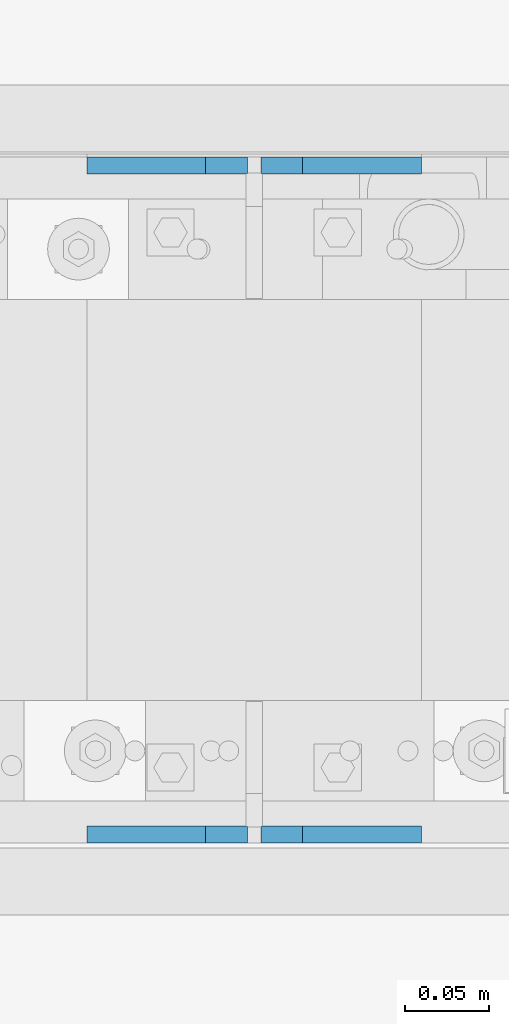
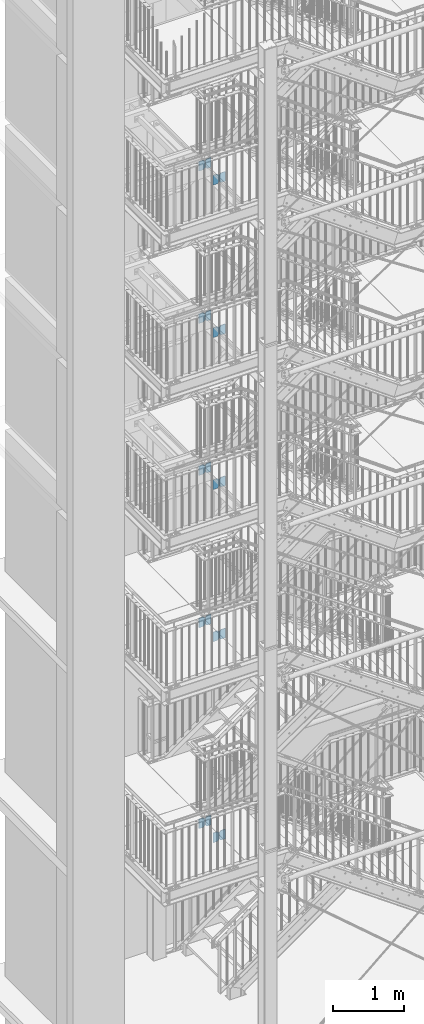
# One storey, part 160 of 817: 20 plates, 40 openings.
"""IFC2X3 building model written with IfcOpenShell, lengths in millimetres."""

from ifc_helpers import new_model, entity, si_unit, converted_unit, frame, origin, origin_with_axes, place, context, project, spatial, polyline, outline, extrude, material, layer, layer_set, element, save


model = new_model("IFC2X3")

# Units and contexts
model_context = context("Model", 3, precision=1e-09, world=origin_with_axes())
ifc_project = project(units=[si_unit("LENGTHUNIT", "METRE", prefix="MILLI"), si_unit("AREAUNIT", "SQUARE_METRE"), si_unit("VOLUMEUNIT", "CUBIC_METRE"), converted_unit("PLANEANGLEUNIT", "DEGREE", entity("IfcPlaneAngleMeasure", 0.01745329), si_unit("PLANEANGLEUNIT", "RADIAN"), dimensions=[0, 0, 0, 0, 0, 0, 0])], contexts=[model_context])

# Site, building, storey
site_placement = place(None, origin_with_axes())
site = spatial("IfcSite", under=ifc_project, at=site_placement, Name="Cnopf'sche Kinderklinik", CompositionType="ELEMENT")
building_placement = place(site_placement, origin_with_axes())
building = spatial("IfcBuilding", under=site, at=building_placement, Name="Struktur 1", CompositionType="ELEMENT")
storey_placement = place(building_placement, origin_with_axes())
storey = spatial("IfcBuildingStorey", under=building, at=storey_placement, Name="Default Storey", CompositionType="ELEMENT", Elevation=0.0)

# Plate, openings
ifc_material = material(Name="S235JR")
ifc_layer = layer(ifc_material, 10.0)
ifc_layer_set = layer_set([ifc_layer], Name="S235JR")
plate_1_placement = place(None, frame((4852.713402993, 6136.736971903, 3428.5), z_axis=(0.0, 1.0, 0.0), x_axis=(-1.0, 0.0, 0.0)))
plate_1 = element("IfcPlate", 1, at=plate_1_placement, inside=storey, material=ifc_layer_set, Name="Stiffener#1", ObjectType="Stiffener#1", context=model_context, shape_type="SweptSolid", body=[
    extrude(outline(polyline([(0.0, 0.0), (96.0, 0.0), (96.0, 167.0), (0.0, 167.0), (0.0, 0.0)])), origin_with_axes(), (0.0, 0.0, 1.0), 10.0),
])
opening_1_placement = place(plate_1_placement, frame((0.0, 0.0, -0.01), z_axis=(0.0, 0.0, 1.0), x_axis=(1.0, 0.0, 0.0)))
element("IfcOpeningElement", 2, at=opening_1_placement, cuts=plate_1, ObjectType="Opening", context=model_context, shape_type="SweptSolid", body=[
    extrude(outline(polyline([(0.0, 167.0), (0.0, 142.0), (25.0, 167.0), (0.0, 167.0)])), origin(), (0.0, 0.0, 1.0), 10.02),
])
opening_2_placement = place(plate_1_placement, frame((0.0, 0.0, -0.01), z_axis=(0.0, 0.0, 1.0), x_axis=(1.0, 0.0, 0.0)))
element("IfcOpeningElement", 3, at=opening_2_placement, cuts=plate_1, ObjectType="Opening", context=model_context, shape_type="SweptSolid", body=[
    extrude(outline(polyline([(0.0, 0.0), (25.0, 0.0), (0.0, 25.0), (0.0, 0.0)])), origin(), (0.0, 0.0, 1.0), 10.02),
])

plate_2_placement = place(None, frame((4956.713402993, 6136.736971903, 3428.5), z_axis=(0.0, 1.0, 0.0), x_axis=(-1.0, 0.0, 0.0)))
plate_2 = element("IfcPlate", 4, at=plate_2_placement, inside=storey, material=ifc_layer_set, Name="Stiffener#0", ObjectType="Stiffener#0", context=model_context, shape_type="SweptSolid", body=[
    extrude(outline(polyline([(0.0, 0.0), (96.0, 0.0), (96.0, 167.0), (0.0, 167.0), (0.0, 0.0)])), origin_with_axes(), (0.0, 0.0, 1.0), 10.0),
])
opening_3_placement = place(plate_2_placement, frame((0.0, 0.0, -0.01), z_axis=(0.0, 0.0, 1.0), x_axis=(1.0, 0.0, 0.0)))
element("IfcOpeningElement", 5, at=opening_3_placement, cuts=plate_2, ObjectType="Opening", context=model_context, shape_type="SweptSolid", body=[
    extrude(outline(polyline([(96.0, 167.0), (71.0, 167.0), (96.0, 142.0), (96.0, 167.0)])), origin(), (0.0, 0.0, 1.0), 10.02),
])
opening_4_placement = place(plate_2_placement, frame((0.0, 0.0, -0.01), z_axis=(0.0, 0.0, 1.0), x_axis=(1.0, 0.0, 0.0)))
element("IfcOpeningElement", 6, at=opening_4_placement, cuts=plate_2, ObjectType="Opening", context=model_context, shape_type="SweptSolid", body=[
    extrude(outline(polyline([(96.0, 0.0), (96.0, 25.0), (71.0, 0.0), (96.0, 0.0)])), origin(), (0.0, 0.0, 1.0), 10.02),
])

plate_3_placement = place(None, frame((4852.713402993, 5736.736971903, 3428.5), z_axis=(0.0, 1.0, 0.0), x_axis=(-1.0, 0.0, 0.0)))
plate_3 = element("IfcPlate", 7, at=plate_3_placement, inside=storey, material=ifc_layer_set, Name="Stiffener#1", ObjectType="Stiffener#1", context=model_context, shape_type="SweptSolid", body=[
    extrude(outline(polyline([(0.0, 0.0), (96.0, 0.0), (96.0, 167.0), (0.0, 167.0), (0.0, 0.0)])), origin_with_axes(), (0.0, 0.0, 1.0), 10.0),
])
opening_5_placement = place(plate_3_placement, frame((0.0, 0.0, -0.01), z_axis=(0.0, 0.0, 1.0), x_axis=(1.0, 0.0, 0.0)))
element("IfcOpeningElement", 8, at=opening_5_placement, cuts=plate_3, ObjectType="Opening", context=model_context, shape_type="SweptSolid", body=[
    extrude(outline(polyline([(0.0, 167.0), (0.0, 142.0), (25.0, 167.0), (0.0, 167.0)])), origin(), (0.0, 0.0, 1.0), 10.02),
])
opening_6_placement = place(plate_3_placement, frame((0.0, 0.0, -0.01), z_axis=(0.0, 0.0, 1.0), x_axis=(1.0, 0.0, 0.0)))
element("IfcOpeningElement", 9, at=opening_6_placement, cuts=plate_3, ObjectType="Opening", context=model_context, shape_type="SweptSolid", body=[
    extrude(outline(polyline([(0.0, 0.0), (25.0, 0.0), (0.0, 25.0), (0.0, 0.0)])), origin(), (0.0, 0.0, 1.0), 10.02),
])

plate_4_placement = place(None, frame((4956.713402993, 5736.736971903, 3428.5), z_axis=(0.0, 1.0, 0.0), x_axis=(-1.0, 0.0, 0.0)))
plate_4 = element("IfcPlate", 10, at=plate_4_placement, inside=storey, material=ifc_layer_set, Name="Stiffener#0", ObjectType="Stiffener#0", context=model_context, shape_type="SweptSolid", body=[
    extrude(outline(polyline([(0.0, 0.0), (96.0, 0.0), (96.0, 167.0), (0.0, 167.0), (0.0, 0.0)])), origin_with_axes(), (0.0, 0.0, 1.0), 10.0),
])
opening_7_placement = place(plate_4_placement, frame((0.0, 0.0, -0.01), z_axis=(0.0, 0.0, 1.0), x_axis=(1.0, 0.0, 0.0)))
element("IfcOpeningElement", 11, at=opening_7_placement, cuts=plate_4, ObjectType="Opening", context=model_context, shape_type="SweptSolid", body=[
    extrude(outline(polyline([(96.0, 167.0), (71.0, 167.0), (96.0, 142.0), (96.0, 167.0)])), origin(), (0.0, 0.0, 1.0), 10.02),
])
opening_8_placement = place(plate_4_placement, frame((0.0, 0.0, -0.01), z_axis=(0.0, 0.0, 1.0), x_axis=(1.0, 0.0, 0.0)))
element("IfcOpeningElement", 12, at=opening_8_placement, cuts=plate_4, ObjectType="Opening", context=model_context, shape_type="SweptSolid", body=[
    extrude(outline(polyline([(96.0, 0.0), (96.0, 25.0), (71.0, 0.0), (96.0, 0.0)])), origin(), (0.0, 0.0, 1.0), 10.02),
])

plate_5_placement = place(None, frame((4852.713402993, 6136.736971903, 6901.5), z_axis=(0.0, 1.0, 0.0), x_axis=(-1.0, 0.0, 0.0)))
plate_5 = element("IfcPlate", 13, at=plate_5_placement, inside=storey, material=ifc_layer_set, Name="Stiffener#1", ObjectType="Stiffener#1", context=model_context, shape_type="SweptSolid", body=[
    extrude(outline(polyline([(0.0, 0.0), (96.0, 0.0), (96.0, 167.0), (0.0, 167.0), (0.0, 0.0)])), origin_with_axes(), (0.0, 0.0, 1.0), 10.0),
])
opening_9_placement = place(plate_5_placement, frame((0.0, 0.0, -0.01), z_axis=(0.0, 0.0, 1.0), x_axis=(1.0, 0.0, 0.0)))
element("IfcOpeningElement", 14, at=opening_9_placement, cuts=plate_5, ObjectType="Opening", context=model_context, shape_type="SweptSolid", body=[
    extrude(outline(polyline([(0.0, 167.0), (0.0, 142.0), (25.0, 167.0), (0.0, 167.0)])), origin(), (0.0, 0.0, 1.0), 10.02),
])
opening_10_placement = place(plate_5_placement, frame((0.0, 0.0, -0.01), z_axis=(0.0, 0.0, 1.0), x_axis=(1.0, 0.0, 0.0)))
element("IfcOpeningElement", 15, at=opening_10_placement, cuts=plate_5, ObjectType="Opening", context=model_context, shape_type="SweptSolid", body=[
    extrude(outline(polyline([(0.0, 0.0), (25.0, 0.0), (0.0, 25.0), (0.0, 0.0)])), origin(), (0.0, 0.0, 1.0), 10.02),
])

plate_6_placement = place(None, frame((4956.713402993, 6136.736971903, 6901.5), z_axis=(0.0, 1.0, 0.0), x_axis=(-1.0, 0.0, 0.0)))
plate_6 = element("IfcPlate", 16, at=plate_6_placement, inside=storey, material=ifc_layer_set, Name="Stiffener#0", ObjectType="Stiffener#0", context=model_context, shape_type="SweptSolid", body=[
    extrude(outline(polyline([(0.0, 0.0), (96.0, 0.0), (96.0, 167.0), (0.0, 167.0), (0.0, 0.0)])), origin_with_axes(), (0.0, 0.0, 1.0), 10.0),
])
opening_11_placement = place(plate_6_placement, frame((0.0, 0.0, -0.01), z_axis=(0.0, 0.0, 1.0), x_axis=(1.0, 0.0, 0.0)))
element("IfcOpeningElement", 17, at=opening_11_placement, cuts=plate_6, ObjectType="Opening", context=model_context, shape_type="SweptSolid", body=[
    extrude(outline(polyline([(96.0, 167.0), (71.0, 167.0), (96.0, 142.0), (96.0, 167.0)])), origin(), (0.0, 0.0, 1.0), 10.02),
])
opening_12_placement = place(plate_6_placement, frame((0.0, 0.0, -0.01), z_axis=(0.0, 0.0, 1.0), x_axis=(1.0, 0.0, 0.0)))
element("IfcOpeningElement", 18, at=opening_12_placement, cuts=plate_6, ObjectType="Opening", context=model_context, shape_type="SweptSolid", body=[
    extrude(outline(polyline([(96.0, 0.0), (96.0, 25.0), (71.0, 0.0), (96.0, 0.0)])), origin(), (0.0, 0.0, 1.0), 10.02),
])

plate_7_placement = place(None, frame((4852.713402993, 5736.736971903, 6901.5), z_axis=(0.0, 1.0, 0.0), x_axis=(-1.0, 0.0, 0.0)))
plate_7 = element("IfcPlate", 19, at=plate_7_placement, inside=storey, material=ifc_layer_set, Name="Stiffener#1", ObjectType="Stiffener#1", context=model_context, shape_type="SweptSolid", body=[
    extrude(outline(polyline([(0.0, 0.0), (96.0, 0.0), (96.0, 167.0), (0.0, 167.0), (0.0, 0.0)])), origin_with_axes(), (0.0, 0.0, 1.0), 10.0),
])
opening_13_placement = place(plate_7_placement, frame((0.0, 0.0, -0.01), z_axis=(0.0, 0.0, 1.0), x_axis=(1.0, 0.0, 0.0)))
element("IfcOpeningElement", 20, at=opening_13_placement, cuts=plate_7, ObjectType="Opening", context=model_context, shape_type="SweptSolid", body=[
    extrude(outline(polyline([(0.0, 167.0), (0.0, 142.0), (25.0, 167.0), (0.0, 167.0)])), origin(), (0.0, 0.0, 1.0), 10.02),
])
opening_14_placement = place(plate_7_placement, frame((0.0, 0.0, -0.01), z_axis=(0.0, 0.0, 1.0), x_axis=(1.0, 0.0, 0.0)))
element("IfcOpeningElement", 21, at=opening_14_placement, cuts=plate_7, ObjectType="Opening", context=model_context, shape_type="SweptSolid", body=[
    extrude(outline(polyline([(0.0, 0.0), (25.0, 0.0), (0.0, 25.0), (0.0, 0.0)])), origin(), (0.0, 0.0, 1.0), 10.02),
])

plate_8_placement = place(None, frame((4956.713402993, 5736.736971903, 6901.5), z_axis=(0.0, 1.0, 0.0), x_axis=(-1.0, 0.0, 0.0)))
plate_8 = element("IfcPlate", 22, at=plate_8_placement, inside=storey, material=ifc_layer_set, Name="Stiffener#0", ObjectType="Stiffener#0", context=model_context, shape_type="SweptSolid", body=[
    extrude(outline(polyline([(0.0, 0.0), (96.0, 0.0), (96.0, 167.0), (0.0, 167.0), (0.0, 0.0)])), origin_with_axes(), (0.0, 0.0, 1.0), 10.0),
])
opening_15_placement = place(plate_8_placement, frame((0.0, 0.0, -0.01), z_axis=(0.0, 0.0, 1.0), x_axis=(1.0, 0.0, 0.0)))
element("IfcOpeningElement", 23, at=opening_15_placement, cuts=plate_8, ObjectType="Opening", context=model_context, shape_type="SweptSolid", body=[
    extrude(outline(polyline([(96.0, 167.0), (71.0, 167.0), (96.0, 142.0), (96.0, 167.0)])), origin(), (0.0, 0.0, 1.0), 10.02),
])
opening_16_placement = place(plate_8_placement, frame((0.0, 0.0, -0.01), z_axis=(0.0, 0.0, 1.0), x_axis=(1.0, 0.0, 0.0)))
element("IfcOpeningElement", 24, at=opening_16_placement, cuts=plate_8, ObjectType="Opening", context=model_context, shape_type="SweptSolid", body=[
    extrude(outline(polyline([(96.0, 0.0), (96.0, 25.0), (71.0, 0.0), (96.0, 0.0)])), origin(), (0.0, 0.0, 1.0), 10.02),
])

plate_9_placement = place(None, frame((4852.713402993, 6136.736971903, 9533.5), z_axis=(0.0, 1.0, 0.0), x_axis=(-1.0, 0.0, 0.0)))
plate_9 = element("IfcPlate", 25, at=plate_9_placement, inside=storey, material=ifc_layer_set, Name="Stiffener#1", ObjectType="Stiffener#1", context=model_context, shape_type="SweptSolid", body=[
    extrude(outline(polyline([(0.0, 0.0), (96.0, 0.0), (96.0, 167.0), (0.0, 167.0), (0.0, 0.0)])), origin_with_axes(), (0.0, 0.0, 1.0), 10.0),
])
opening_17_placement = place(plate_9_placement, frame((0.0, 0.0, -0.01), z_axis=(0.0, 0.0, 1.0), x_axis=(1.0, 0.0, 0.0)))
element("IfcOpeningElement", 26, at=opening_17_placement, cuts=plate_9, ObjectType="Opening", context=model_context, shape_type="SweptSolid", body=[
    extrude(outline(polyline([(0.0, 167.0), (0.0, 142.0), (25.0, 167.0), (0.0, 167.0)])), origin(), (0.0, 0.0, 1.0), 10.02),
])
opening_18_placement = place(plate_9_placement, frame((0.0, 0.0, -0.01), z_axis=(0.0, 0.0, 1.0), x_axis=(1.0, 0.0, 0.0)))
element("IfcOpeningElement", 27, at=opening_18_placement, cuts=plate_9, ObjectType="Opening", context=model_context, shape_type="SweptSolid", body=[
    extrude(outline(polyline([(0.0, 0.0), (25.0, 0.0), (0.0, 25.0), (0.0, 0.0)])), origin(), (0.0, 0.0, 1.0), 10.02),
])

plate_10_placement = place(None, frame((4956.713402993, 6136.736971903, 9533.5), z_axis=(0.0, 1.0, 0.0), x_axis=(-1.0, 0.0, 0.0)))
plate_10 = element("IfcPlate", 28, at=plate_10_placement, inside=storey, material=ifc_layer_set, Name="Stiffener#0", ObjectType="Stiffener#0", context=model_context, shape_type="SweptSolid", body=[
    extrude(outline(polyline([(0.0, 0.0), (96.0, 0.0), (96.0, 167.0), (0.0, 167.0), (0.0, 0.0)])), origin_with_axes(), (0.0, 0.0, 1.0), 10.0),
])
opening_19_placement = place(plate_10_placement, frame((0.0, 0.0, -0.01), z_axis=(0.0, 0.0, 1.0), x_axis=(1.0, 0.0, 0.0)))
element("IfcOpeningElement", 29, at=opening_19_placement, cuts=plate_10, ObjectType="Opening", context=model_context, shape_type="SweptSolid", body=[
    extrude(outline(polyline([(96.0, 167.0), (71.0, 167.0), (96.0, 142.0), (96.0, 167.0)])), origin(), (0.0, 0.0, 1.0), 10.02),
])
opening_20_placement = place(plate_10_placement, frame((0.0, 0.0, -0.01), z_axis=(0.0, 0.0, 1.0), x_axis=(1.0, 0.0, 0.0)))
element("IfcOpeningElement", 30, at=opening_20_placement, cuts=plate_10, ObjectType="Opening", context=model_context, shape_type="SweptSolid", body=[
    extrude(outline(polyline([(96.0, 0.0), (96.0, 25.0), (71.0, 0.0), (96.0, 0.0)])), origin(), (0.0, 0.0, 1.0), 10.02),
])

plate_11_placement = place(None, frame((4852.713402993, 5736.736971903, 9533.5), z_axis=(0.0, 1.0, 0.0), x_axis=(-1.0, 0.0, 0.0)))
plate_11 = element("IfcPlate", 31, at=plate_11_placement, inside=storey, material=ifc_layer_set, Name="Stiffener#1", ObjectType="Stiffener#1", context=model_context, shape_type="SweptSolid", body=[
    extrude(outline(polyline([(0.0, 0.0), (96.0, 0.0), (96.0, 167.0), (0.0, 167.0), (0.0, 0.0)])), origin_with_axes(), (0.0, 0.0, 1.0), 10.0),
])
opening_21_placement = place(plate_11_placement, frame((0.0, 0.0, -0.01), z_axis=(0.0, 0.0, 1.0), x_axis=(1.0, 0.0, 0.0)))
element("IfcOpeningElement", 32, at=opening_21_placement, cuts=plate_11, ObjectType="Opening", context=model_context, shape_type="SweptSolid", body=[
    extrude(outline(polyline([(0.0, 167.0), (0.0, 142.0), (25.0, 167.0), (0.0, 167.0)])), origin(), (0.0, 0.0, 1.0), 10.02),
])
opening_22_placement = place(plate_11_placement, frame((0.0, 0.0, -0.01), z_axis=(0.0, 0.0, 1.0), x_axis=(1.0, 0.0, 0.0)))
element("IfcOpeningElement", 33, at=opening_22_placement, cuts=plate_11, ObjectType="Opening", context=model_context, shape_type="SweptSolid", body=[
    extrude(outline(polyline([(0.0, 0.0), (25.0, 0.0), (0.0, 25.0), (0.0, 0.0)])), origin(), (0.0, 0.0, 1.0), 10.02),
])

plate_12_placement = place(None, frame((4956.713402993, 5736.736971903, 9533.5), z_axis=(0.0, 1.0, 0.0), x_axis=(-1.0, 0.0, 0.0)))
plate_12 = element("IfcPlate", 34, at=plate_12_placement, inside=storey, material=ifc_layer_set, Name="Stiffener#0", ObjectType="Stiffener#0", context=model_context, shape_type="SweptSolid", body=[
    extrude(outline(polyline([(0.0, 0.0), (96.0, 0.0), (96.0, 167.0), (0.0, 167.0), (0.0, 0.0)])), origin_with_axes(), (0.0, 0.0, 1.0), 10.0),
])
opening_23_placement = place(plate_12_placement, frame((0.0, 0.0, -0.01), z_axis=(0.0, 0.0, 1.0), x_axis=(1.0, 0.0, 0.0)))
element("IfcOpeningElement", 35, at=opening_23_placement, cuts=plate_12, ObjectType="Opening", context=model_context, shape_type="SweptSolid", body=[
    extrude(outline(polyline([(96.0, 167.0), (71.0, 167.0), (96.0, 142.0), (96.0, 167.0)])), origin(), (0.0, 0.0, 1.0), 10.02),
])
opening_24_placement = place(plate_12_placement, frame((0.0, 0.0, -0.01), z_axis=(0.0, 0.0, 1.0), x_axis=(1.0, 0.0, 0.0)))
element("IfcOpeningElement", 36, at=opening_24_placement, cuts=plate_12, ObjectType="Opening", context=model_context, shape_type="SweptSolid", body=[
    extrude(outline(polyline([(96.0, 0.0), (96.0, 25.0), (71.0, 0.0), (96.0, 0.0)])), origin(), (0.0, 0.0, 1.0), 10.02),
])

plate_13_placement = place(None, frame((4852.713402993, 5736.736971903, 12160.5), z_axis=(0.0, 1.0, 0.0), x_axis=(-1.0, 0.0, 0.0)))
plate_13 = element("IfcPlate", 37, at=plate_13_placement, inside=storey, material=ifc_layer_set, Name="Stiffener#1", ObjectType="Stiffener#1", context=model_context, shape_type="SweptSolid", body=[
    extrude(outline(polyline([(0.0, 0.0), (96.0, 0.0), (96.0, 167.0), (0.0, 167.0), (0.0, 0.0)])), origin_with_axes(), (0.0, 0.0, 1.0), 10.0),
])
opening_25_placement = place(plate_13_placement, frame((0.0, 0.0, -0.01), z_axis=(0.0, 0.0, 1.0), x_axis=(1.0, 0.0, 0.0)))
element("IfcOpeningElement", 38, at=opening_25_placement, cuts=plate_13, ObjectType="Opening", context=model_context, shape_type="SweptSolid", body=[
    extrude(outline(polyline([(0.0, 167.0), (0.0, 142.0), (25.0, 167.0), (0.0, 167.0)])), origin(), (0.0, 0.0, 1.0), 10.02),
])
opening_26_placement = place(plate_13_placement, frame((0.0, 0.0, -0.01), z_axis=(0.0, 0.0, 1.0), x_axis=(1.0, 0.0, 0.0)))
element("IfcOpeningElement", 39, at=opening_26_placement, cuts=plate_13, ObjectType="Opening", context=model_context, shape_type="SweptSolid", body=[
    extrude(outline(polyline([(0.0, 0.0), (25.0, 0.0), (0.0, 25.0), (0.0, 0.0)])), origin(), (0.0, 0.0, 1.0), 10.02),
])

plate_14_placement = place(None, frame((4956.713402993, 5736.736971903, 12160.5), z_axis=(0.0, 1.0, 0.0), x_axis=(-1.0, 0.0, 0.0)))
plate_14 = element("IfcPlate", 40, at=plate_14_placement, inside=storey, material=ifc_layer_set, Name="Stiffener#0", ObjectType="Stiffener#0", context=model_context, shape_type="SweptSolid", body=[
    extrude(outline(polyline([(0.0, 0.0), (96.0, 0.0), (96.0, 167.0), (0.0, 167.0), (0.0, 0.0)])), origin_with_axes(), (0.0, 0.0, 1.0), 10.0),
])
opening_27_placement = place(plate_14_placement, frame((0.0, 0.0, -0.01), z_axis=(0.0, 0.0, 1.0), x_axis=(1.0, 0.0, 0.0)))
element("IfcOpeningElement", 41, at=opening_27_placement, cuts=plate_14, ObjectType="Opening", context=model_context, shape_type="SweptSolid", body=[
    extrude(outline(polyline([(96.0, 167.0), (71.0, 167.0), (96.0, 142.0), (96.0, 167.0)])), origin(), (0.0, 0.0, 1.0), 10.02),
])
opening_28_placement = place(plate_14_placement, frame((0.0, 0.0, -0.01), z_axis=(0.0, 0.0, 1.0), x_axis=(1.0, 0.0, 0.0)))
element("IfcOpeningElement", 42, at=opening_28_placement, cuts=plate_14, ObjectType="Opening", context=model_context, shape_type="SweptSolid", body=[
    extrude(outline(polyline([(96.0, 0.0), (96.0, 25.0), (71.0, 0.0), (96.0, 0.0)])), origin(), (0.0, 0.0, 1.0), 10.02),
])

plate_15_placement = place(None, frame((4852.713402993, 6136.736971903, 12160.5), z_axis=(0.0, 1.0, 0.0), x_axis=(-1.0, 0.0, 0.0)))
plate_15 = element("IfcPlate", 43, at=plate_15_placement, inside=storey, material=ifc_layer_set, Name="Stiffener#1", ObjectType="Stiffener#1", context=model_context, shape_type="SweptSolid", body=[
    extrude(outline(polyline([(0.0, 0.0), (96.0, 0.0), (96.0, 167.0), (0.0, 167.0), (0.0, 0.0)])), origin_with_axes(), (0.0, 0.0, 1.0), 10.0),
])
opening_29_placement = place(plate_15_placement, frame((0.0, 0.0, -0.01), z_axis=(0.0, 0.0, 1.0), x_axis=(1.0, 0.0, 0.0)))
element("IfcOpeningElement", 44, at=opening_29_placement, cuts=plate_15, ObjectType="Opening", context=model_context, shape_type="SweptSolid", body=[
    extrude(outline(polyline([(0.0, 167.0), (0.0, 142.0), (25.0, 167.0), (0.0, 167.0)])), origin(), (0.0, 0.0, 1.0), 10.02),
])
opening_30_placement = place(plate_15_placement, frame((0.0, 0.0, -0.01), z_axis=(0.0, 0.0, 1.0), x_axis=(1.0, 0.0, 0.0)))
element("IfcOpeningElement", 45, at=opening_30_placement, cuts=plate_15, ObjectType="Opening", context=model_context, shape_type="SweptSolid", body=[
    extrude(outline(polyline([(0.0, 0.0), (25.0, 0.0), (0.0, 25.0), (0.0, 0.0)])), origin(), (0.0, 0.0, 1.0), 10.02),
])

plate_16_placement = place(None, frame((4956.713402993, 6136.736971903, 12160.5), z_axis=(0.0, 1.0, 0.0), x_axis=(-1.0, 0.0, 0.0)))
plate_16 = element("IfcPlate", 46, at=plate_16_placement, inside=storey, material=ifc_layer_set, Name="Stiffener#0", ObjectType="Stiffener#0", context=model_context, shape_type="SweptSolid", body=[
    extrude(outline(polyline([(0.0, 0.0), (96.0, 0.0), (96.0, 167.0), (0.0, 167.0), (0.0, 0.0)])), origin_with_axes(), (0.0, 0.0, 1.0), 10.0),
])
opening_31_placement = place(plate_16_placement, frame((0.0, 0.0, -0.01), z_axis=(0.0, 0.0, 1.0), x_axis=(1.0, 0.0, 0.0)))
element("IfcOpeningElement", 47, at=opening_31_placement, cuts=plate_16, ObjectType="Opening", context=model_context, shape_type="SweptSolid", body=[
    extrude(outline(polyline([(96.0, 167.0), (71.0, 167.0), (96.0, 142.0), (96.0, 167.0)])), origin(), (0.0, 0.0, 1.0), 10.02),
])
opening_32_placement = place(plate_16_placement, frame((0.0, 0.0, -0.01), z_axis=(0.0, 0.0, 1.0), x_axis=(1.0, 0.0, 0.0)))
element("IfcOpeningElement", 48, at=opening_32_placement, cuts=plate_16, ObjectType="Opening", context=model_context, shape_type="SweptSolid", body=[
    extrude(outline(polyline([(96.0, 0.0), (96.0, 25.0), (71.0, 0.0), (96.0, 0.0)])), origin(), (0.0, 0.0, 1.0), 10.02),
])

plate_17_placement = place(None, frame((4852.713402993, 5736.736971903, 14795.5), z_axis=(0.0, 1.0, 0.0), x_axis=(-1.0, 0.0, 0.0)))
plate_17 = element("IfcPlate", 49, at=plate_17_placement, inside=storey, material=ifc_layer_set, Name="Stiffener#1", ObjectType="Stiffener#1", context=model_context, shape_type="SweptSolid", body=[
    extrude(outline(polyline([(0.0, 0.0), (96.0, 0.0), (96.0, 167.0), (0.0, 167.0), (0.0, 0.0)])), origin_with_axes(), (0.0, 0.0, 1.0), 10.0),
])
opening_33_placement = place(plate_17_placement, frame((0.0, 0.0, -0.01), z_axis=(0.0, 0.0, 1.0), x_axis=(1.0, 0.0, 0.0)))
element("IfcOpeningElement", 50, at=opening_33_placement, cuts=plate_17, ObjectType="Opening", context=model_context, shape_type="SweptSolid", body=[
    extrude(outline(polyline([(0.0, 167.0), (0.0, 142.0), (25.0, 167.0), (0.0, 167.0)])), origin(), (0.0, 0.0, 1.0), 10.02),
])
opening_34_placement = place(plate_17_placement, frame((0.0, 0.0, -0.01), z_axis=(0.0, 0.0, 1.0), x_axis=(1.0, 0.0, 0.0)))
element("IfcOpeningElement", 51, at=opening_34_placement, cuts=plate_17, ObjectType="Opening", context=model_context, shape_type="SweptSolid", body=[
    extrude(outline(polyline([(0.0, 0.0), (25.0, 0.0), (0.0, 25.0), (0.0, 0.0)])), origin(), (0.0, 0.0, 1.0), 10.02),
])

plate_18_placement = place(None, frame((4956.713402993, 5736.736971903, 14795.5), z_axis=(0.0, 1.0, 0.0), x_axis=(-1.0, 0.0, 0.0)))
plate_18 = element("IfcPlate", 52, at=plate_18_placement, inside=storey, material=ifc_layer_set, Name="Stiffener#0", ObjectType="Stiffener#0", context=model_context, shape_type="SweptSolid", body=[
    extrude(outline(polyline([(0.0, 0.0), (96.0, 0.0), (96.0, 167.0), (0.0, 167.0), (0.0, 0.0)])), origin_with_axes(), (0.0, 0.0, 1.0), 10.0),
])
opening_35_placement = place(plate_18_placement, frame((0.0, 0.0, -0.01), z_axis=(0.0, 0.0, 1.0), x_axis=(1.0, 0.0, 0.0)))
element("IfcOpeningElement", 53, at=opening_35_placement, cuts=plate_18, ObjectType="Opening", context=model_context, shape_type="SweptSolid", body=[
    extrude(outline(polyline([(96.0, 167.0), (71.0, 167.0), (96.0, 142.0), (96.0, 167.0)])), origin(), (0.0, 0.0, 1.0), 10.02),
])
opening_36_placement = place(plate_18_placement, frame((0.0, 0.0, -0.01), z_axis=(0.0, 0.0, 1.0), x_axis=(1.0, 0.0, 0.0)))
element("IfcOpeningElement", 54, at=opening_36_placement, cuts=plate_18, ObjectType="Opening", context=model_context, shape_type="SweptSolid", body=[
    extrude(outline(polyline([(96.0, 0.0), (96.0, 25.0), (71.0, 0.0), (96.0, 0.0)])), origin(), (0.0, 0.0, 1.0), 10.02),
])

plate_19_placement = place(None, frame((4852.713402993, 6136.736971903, 14795.5), z_axis=(0.0, 1.0, 0.0), x_axis=(-1.0, 0.0, 0.0)))
plate_19 = element("IfcPlate", 55, at=plate_19_placement, inside=storey, material=ifc_layer_set, Name="Stiffener#1", ObjectType="Stiffener#1", context=model_context, shape_type="SweptSolid", body=[
    extrude(outline(polyline([(0.0, 0.0), (96.0, 0.0), (96.0, 167.0), (0.0, 167.0), (0.0, 0.0)])), origin_with_axes(), (0.0, 0.0, 1.0), 10.0),
])
opening_37_placement = place(plate_19_placement, frame((0.0, 0.0, -0.01), z_axis=(0.0, 0.0, 1.0), x_axis=(1.0, 0.0, 0.0)))
element("IfcOpeningElement", 56, at=opening_37_placement, cuts=plate_19, ObjectType="Opening", context=model_context, shape_type="SweptSolid", body=[
    extrude(outline(polyline([(0.0, 167.0), (0.0, 142.0), (25.0, 167.0), (0.0, 167.0)])), origin(), (0.0, 0.0, 1.0), 10.02),
])
opening_38_placement = place(plate_19_placement, frame((0.0, 0.0, -0.01), z_axis=(0.0, 0.0, 1.0), x_axis=(1.0, 0.0, 0.0)))
element("IfcOpeningElement", 57, at=opening_38_placement, cuts=plate_19, ObjectType="Opening", context=model_context, shape_type="SweptSolid", body=[
    extrude(outline(polyline([(0.0, 0.0), (25.0, 0.0), (0.0, 25.0), (0.0, 0.0)])), origin(), (0.0, 0.0, 1.0), 10.02),
])

plate_20_placement = place(None, frame((4956.713402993, 6136.736971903, 14795.5), z_axis=(0.0, 1.0, 0.0), x_axis=(-1.0, 0.0, 0.0)))
plate_20 = element("IfcPlate", 58, at=plate_20_placement, inside=storey, material=ifc_layer_set, Name="Stiffener#0", ObjectType="Stiffener#0", context=model_context, shape_type="SweptSolid", body=[
    extrude(outline(polyline([(0.0, 0.0), (96.0, 0.0), (96.0, 167.0), (0.0, 167.0), (0.0, 0.0)])), origin_with_axes(), (0.0, 0.0, 1.0), 10.0),
])
opening_39_placement = place(plate_20_placement, frame((0.0, 0.0, -0.01), z_axis=(0.0, 0.0, 1.0), x_axis=(1.0, 0.0, 0.0)))
element("IfcOpeningElement", 59, at=opening_39_placement, cuts=plate_20, ObjectType="Opening", context=model_context, shape_type="SweptSolid", body=[
    extrude(outline(polyline([(96.0, 167.0), (71.0, 167.0), (96.0, 142.0), (96.0, 167.0)])), origin(), (0.0, 0.0, 1.0), 10.02),
])
opening_40_placement = place(plate_20_placement, frame((0.0, 0.0, -0.01), z_axis=(0.0, 0.0, 1.0), x_axis=(1.0, 0.0, 0.0)))
element("IfcOpeningElement", 60, at=opening_40_placement, cuts=plate_20, ObjectType="Opening", context=model_context, shape_type="SweptSolid", body=[
    extrude(outline(polyline([(96.0, 0.0), (96.0, 25.0), (71.0, 0.0), (96.0, 0.0)])), origin(), (0.0, 0.0, 1.0), 10.02),
])

save(model, "model.ifc")
